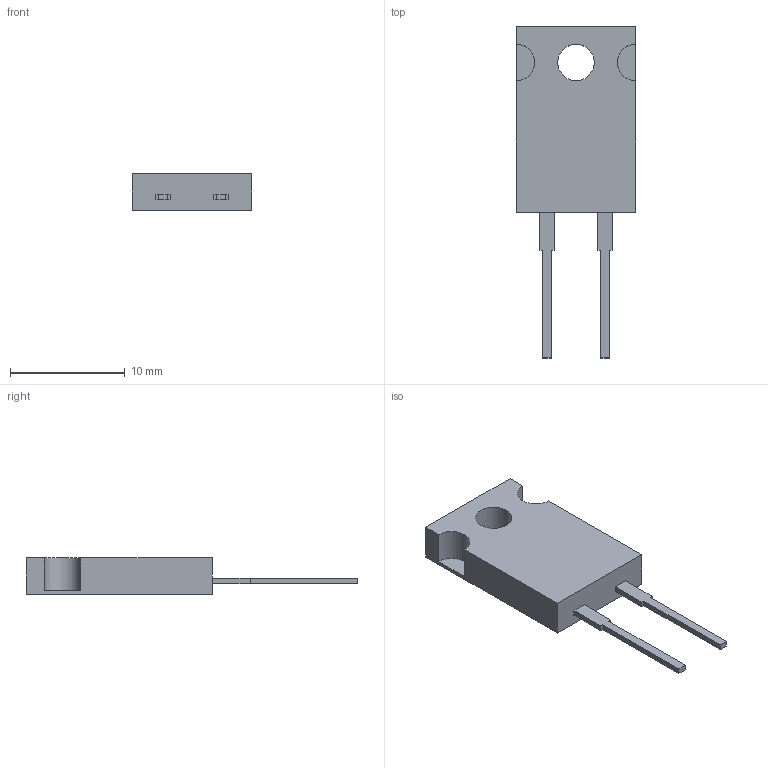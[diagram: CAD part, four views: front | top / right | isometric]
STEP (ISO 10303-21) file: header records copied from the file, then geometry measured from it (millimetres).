
FILE_DESCRIPTION(/* description */ (''),/* implementation_level */ '2;1');
FILE_NAME(/* name */ 'C:\Users\mulla\Documents\SEI Models\Inventor Files\TR\TR50H_stp.stp',/* time_stamp */ '2019-07-09T20:02:42-04:00',/* author */ ('mulla'),/* organization */ (''),/* preprocessor_version */ 'ST-DEVELOPER v16.1',/* originating_system */ 'Autodesk Inventor 2016',/* authorisation */ '');
FILE_SCHEMA (('AUTOMOTIVE_DESIGN { 1 0 10303 214 3 1 1 }'));
Length unit declared in the file: millimetre
Products named in the file (1): TR50H
Bounding box: 10.41 x 28.96 x 3.18 mm (x, y, z)
Volume: 501.6 mm3; surface area: 607.7 mm2
Topology: 3 solids, 3 shells, 31 faces, 75 edges, 50 vertices
Faces by surface type: plane 28, cylinder 3
Full cylindrical faces by diameter (mm): 3.18 x1
Entity records: 916 total; most frequent: CARTESIAN_POINT 156, ORIENTED_EDGE 148, DIRECTION 144, EDGE_CURVE 74, LINE 68, VECTOR 68, VERTEX_POINT 50, AXIS2_PLACEMENT_3D 38
